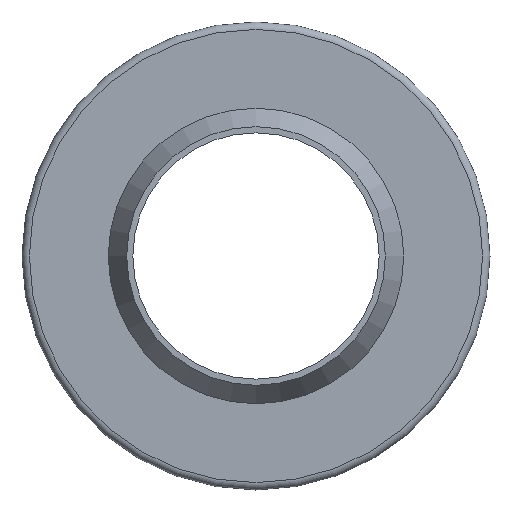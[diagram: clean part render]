
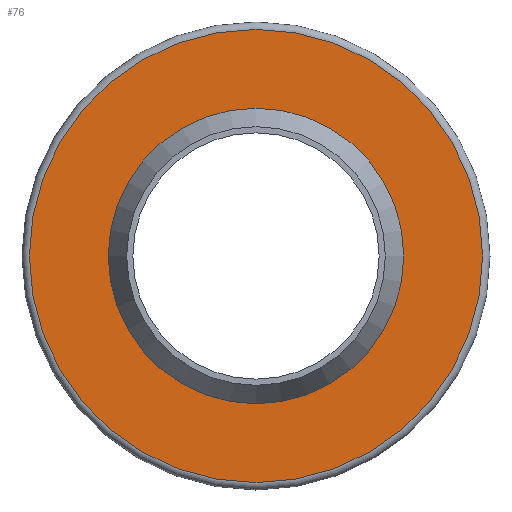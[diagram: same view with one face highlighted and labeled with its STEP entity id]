
A CAD part, left-side view. The second image highlights one B-rep face of the part: STEP entity #76.
In plain terms, the highlighted planar face has unit normal (-1, 0, 0).
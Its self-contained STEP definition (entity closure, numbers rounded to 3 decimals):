
#76=ADVANCED_FACE('',(#93,#94),#95,.T.);
#93=FACE_OUTER_BOUND('',#135,.T.);
#94=FACE_BOUND('',#136,.T.);
#95=PLANE('',#137);
#135=EDGE_LOOP('',(#179));
#136=EDGE_LOOP('',(#180));
#137=AXIS2_PLACEMENT_3D('',#181,#182,#183);
#179=ORIENTED_EDGE('',*,*,#246,.T.);
#180=ORIENTED_EDGE('',*,*,#244,.F.);
#181=CARTESIAN_POINT('',(-3.,6.,0.0));
#182=DIRECTION('',(-1.0,0.0,0.0));
#183=DIRECTION('',(0.0,0.0,1.0));
#244=EDGE_CURVE('',#258,#258,#259,.T.);
#246=EDGE_CURVE('',#262,#262,#263,.T.);
#258=VERTEX_POINT('',#286);
#259=CIRCLE('',#287,6.);
#262=VERTEX_POINT('',#290);
#263=CIRCLE('',#291,9.2);
#286=CARTESIAN_POINT('',(-3.,0.0,6.));
#287=AXIS2_PLACEMENT_3D('',#314,#315,#316);
#290=CARTESIAN_POINT('',(-3.,0.0,9.2));
#291=AXIS2_PLACEMENT_3D('',#320,#321,#322);
#314=CARTESIAN_POINT('',(-3.,0.0,0.0));
#315=DIRECTION('',(-1.0,0.0,0.0));
#316=DIRECTION('',(0.0,0.0,1.0));
#320=CARTESIAN_POINT('',(-3.,0.0,0.0));
#321=DIRECTION('',(-1.0,0.0,0.0));
#322=DIRECTION('',(0.0,0.0,1.0));
